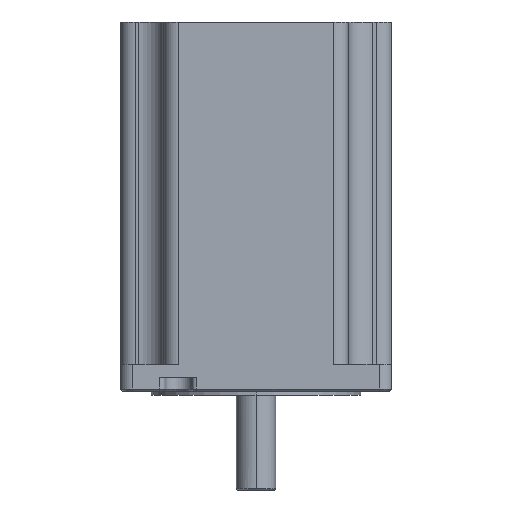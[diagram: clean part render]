
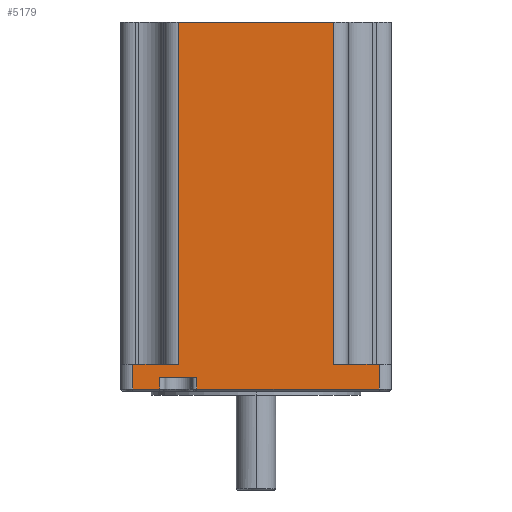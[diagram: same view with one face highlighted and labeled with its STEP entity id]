
A CAD part, left-side view. The second image highlights one B-rep face of the part: STEP entity #5179.
In plain terms, the highlighted planar face has unit normal (-1, 0, 0).
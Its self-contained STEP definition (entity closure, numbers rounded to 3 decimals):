
#617=DIRECTION('',(0.,0.,-1.));
#618=VECTOR('',#617,139.);
#619=CARTESIAN_POINT('',(135.741,147.715,150.));
#620=LINE('',#619,#618);
#621=DIRECTION('',(0.,-1.,0.));
#622=VECTOR('',#621,63.);
#623=CARTESIAN_POINT('',(135.741,147.715,150.));
#624=LINE('',#623,#622);
#625=DIRECTION('',(0.,0.,-1.));
#626=VECTOR('',#625,139.);
#627=CARTESIAN_POINT('',(135.741,84.715,150.));
#628=LINE('',#627,#626);
#629=DIRECTION('',(0.,-1.,0.));
#630=VECTOR('',#629,18.5);
#631=CARTESIAN_POINT('',(135.741,84.715,11.));
#632=LINE('',#631,#630);
#633=DIRECTION('',(0.,1.,0.));
#634=VECTOR('',#633,15.);
#635=CARTESIAN_POINT('',(135.741,140.215,5.5));
#636=LINE('',#635,#634);
#637=DIRECTION('',(0.,-1.,0.));
#638=VECTOR('',#637,18.5);
#639=CARTESIAN_POINT('',(135.741,166.215,11.));
#640=LINE('',#639,#638);
#1048=DIRECTION('',(0.,-1.,0.));
#1049=VECTOR('',#1048,11.);
#1050=CARTESIAN_POINT('',(135.741,166.215,1.));
#1051=LINE('',#1050,#1049);
#1116=DIRECTION('',(0.,-1.,0.));
#1117=VECTOR('',#1116,74.);
#1118=CARTESIAN_POINT('',(135.741,140.215,1.));
#1119=LINE('',#1118,#1117);
#1857=DIRECTION('',(0.,0.,-1.));
#1858=VECTOR('',#1857,10.);
#1859=CARTESIAN_POINT('',(135.741,166.215,11.));
#1860=LINE('',#1859,#1858);
#1903=DIRECTION('',(0.,0.,1.));
#1904=VECTOR('',#1903,10.);
#1905=CARTESIAN_POINT('',(135.741,66.215,1.));
#1906=LINE('',#1905,#1904);
#1933=DIRECTION('',(0.,0.,-1.));
#1934=VECTOR('',#1933,4.5);
#1935=CARTESIAN_POINT('',(135.741,140.215,5.5));
#1936=LINE('',#1935,#1934);
#1953=DIRECTION('',(0.,0.,1.));
#1954=VECTOR('',#1953,4.5);
#1955=CARTESIAN_POINT('',(135.741,155.215,1.));
#1956=LINE('',#1955,#1954);
#3850=CARTESIAN_POINT('',(135.741,66.215,1.));
#3851=VERTEX_POINT('',#3850);
#3918=CARTESIAN_POINT('',(135.741,166.215,1.));
#3919=VERTEX_POINT('',#3918);
#3920=CARTESIAN_POINT('',(135.741,155.215,1.));
#3921=VERTEX_POINT('',#3920);
#3932=CARTESIAN_POINT('',(135.741,140.215,1.));
#3933=VERTEX_POINT('',#3932);
#3934=CARTESIAN_POINT('',(135.741,84.715,11.));
#3935=CARTESIAN_POINT('',(135.741,66.215,11.));
#3936=VERTEX_POINT('',#3934);
#3937=VERTEX_POINT('',#3935);
#3938=CARTESIAN_POINT('',(135.741,140.215,5.5));
#3939=VERTEX_POINT('',#3938);
#3940=CARTESIAN_POINT('',(135.741,155.215,5.5));
#3941=VERTEX_POINT('',#3940);
#3942=CARTESIAN_POINT('',(135.741,166.215,11.));
#3943=VERTEX_POINT('',#3942);
#3944=CARTESIAN_POINT('',(135.741,147.715,11.));
#3945=VERTEX_POINT('',#3944);
#4238=CARTESIAN_POINT('',(135.741,147.715,150.));
#4239=VERTEX_POINT('',#4238);
#4240=CARTESIAN_POINT('',(135.741,84.715,150.));
#4241=VERTEX_POINT('',#4240);
#5150=CARTESIAN_POINT('',(135.741,116.215,-14.5));
#5151=DIRECTION('',(1.,0.,0.));
#5152=DIRECTION('',(0.,0.,1.));
#5153=AXIS2_PLACEMENT_3D('',#5150,#5151,#5152);
#5154=PLANE('',#5153);
#5155=ORIENTED_EDGE('',*,*,#4617,.T.);
#5157=ORIENTED_EDGE('',*,*,#5156,.T.);
#5159=ORIENTED_EDGE('',*,*,#5158,.T.);
#5161=ORIENTED_EDGE('',*,*,#5160,.F.);
#5163=ORIENTED_EDGE('',*,*,#5162,.F.);
#5165=ORIENTED_EDGE('',*,*,#5164,.F.);
#5167=ORIENTED_EDGE('',*,*,#5166,.T.);
#5169=ORIENTED_EDGE('',*,*,#5168,.F.);
#5171=ORIENTED_EDGE('',*,*,#5170,.F.);
#5173=ORIENTED_EDGE('',*,*,#5172,.F.);
#5175=ORIENTED_EDGE('',*,*,#5174,.T.);
#5176=ORIENTED_EDGE('',*,*,#5142,.F.);
#5177=EDGE_LOOP('',(#5155,#5157,#5159,#5161,#5163,#5165,#5167,#5169,#5171,#5173,
#5175,#5176));
#5178=FACE_OUTER_BOUND('',#5177,.F.);
#5179=ADVANCED_FACE('',(#5178),#5154,.F.);
#4617=EDGE_CURVE('',#4239,#4241,#624,.T.);
#5142=EDGE_CURVE('',#4239,#3945,#620,.T.);
#5156=EDGE_CURVE('',#4241,#3936,#628,.T.);
#5158=EDGE_CURVE('',#3936,#3937,#632,.T.);
#5160=EDGE_CURVE('',#3851,#3937,#1906,.T.);
#5162=EDGE_CURVE('',#3933,#3851,#1119,.T.);
#5164=EDGE_CURVE('',#3939,#3933,#1936,.T.);
#5166=EDGE_CURVE('',#3939,#3941,#636,.T.);
#5168=EDGE_CURVE('',#3921,#3941,#1956,.T.);
#5170=EDGE_CURVE('',#3919,#3921,#1051,.T.);
#5172=EDGE_CURVE('',#3943,#3919,#1860,.T.);
#5174=EDGE_CURVE('',#3943,#3945,#640,.T.);
